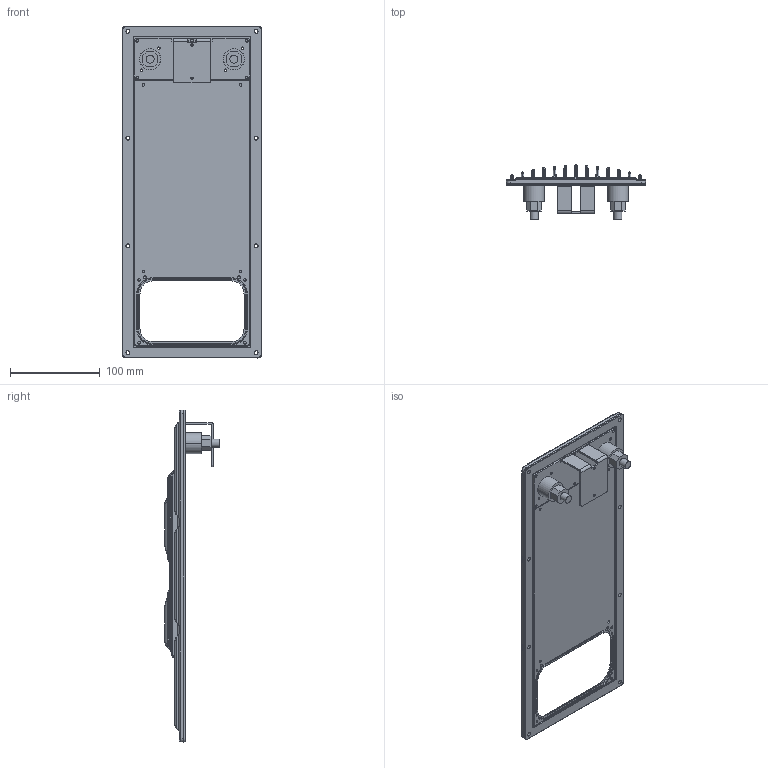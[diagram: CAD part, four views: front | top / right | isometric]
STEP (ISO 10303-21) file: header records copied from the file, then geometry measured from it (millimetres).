
FILE_DESCRIPTION(/* description */ ('Unknown'),/* implementation_level */ '2;1');
FILE_NAME(/* name */ 'HS000M01',/* time_stamp */ '2017-01-25T16:36:08+01:00',/* author */ ('Unknown'),/* organization */ ('Unknown'),/* preprocessor_version */ 'ST-DEVELOPER v16.7',/* originating_system */ 'DEX',/* authorisation */ $);
FILE_SCHEMA (('AUTOMOTIVE_DESIGN {1 0 10303 214 3 1 1}'));
Products named in the file (4): HS000M01; ME000472; ME000491; Ingombro connettore Neutrik
Assembly tree (4 placements, depth 2):
  HS000M01
    ME000472
    ME000491
    Ingombro connettore Neutrik  x2
Bounding box: 155 x 60.5 x 370 mm (x, y, z)
Volume: 432580.6 mm3; surface area: 181231.6 mm2
Topology: 4 solids, 4 shells, 1473 faces, 3521 edges, 2102 vertices
Faces by surface type: cylinder 576, plane 437, bspline 330, torus 72, cone 52, sphere 6
Full cylindrical faces by diameter (mm): 2.7 x6, 2.9 x2, 3 x10, 3.2 x6, 3.3 x4, 9 x2, 23.5 x2
Entity records: 89088 total; most frequent: CARTESIAN_POINT 49404, ORIENTED_EDGE 6702, DIRECTION 5947, EDGE_CURVE 3351, AXIS2_PLACEMENT_3D 2157, VERTEX_POINT 2014, LINE 1633, VECTOR 1633
